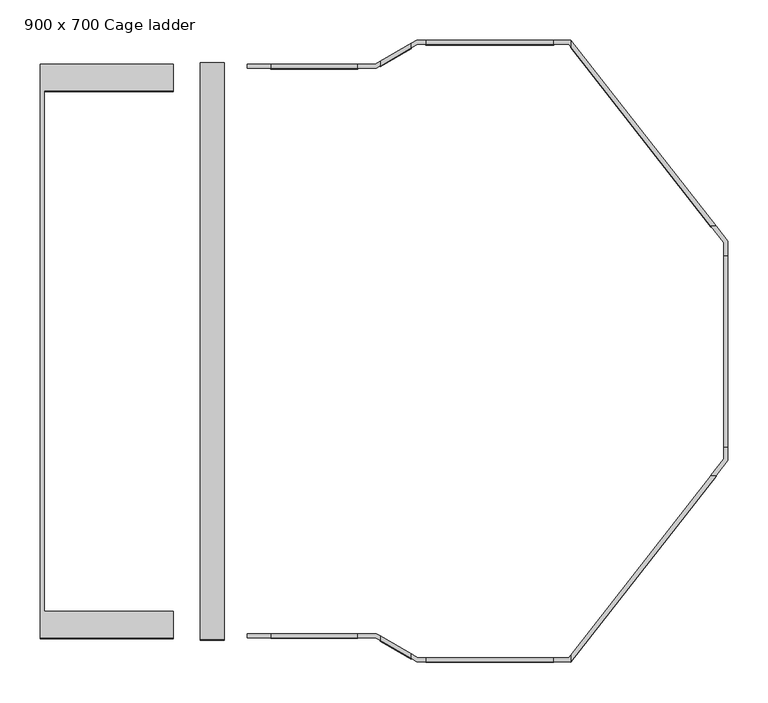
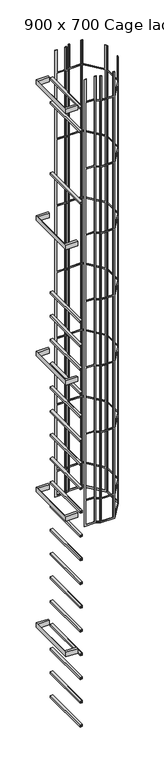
"""IFC4 building model written with IfcOpenShell, lengths in millimetres: proxy geometry, 1_Topaccess_dakluik_900x700_Staka : 900 x 700 Cage ladder."""

from ifc_helpers import new_model, si_unit, frame, origin, place, context, project, spatial, polyline, outline, extrude, faceted_brep, source, transform, mapped, element, save


def proxy_900_x_700_cage_ladder_a34c2096(model_context):
    return source(origin(), model_context, "Body", "SolidModel", [
        extrude(outline(polyline([(-1131.2697623, 496.5450979), (-965.0960873, 496.5450979), (-965.0960873, 463.5450979), (-1126.2697623, 463.5450979), (-1126.2697623, -186.4549021), (-965.0960873, -186.4549021), (-965.0960873, -219.4549021), (-1131.2697623, -219.4549021), (-1131.2697623, 496.5450979)])), frame((0.0, 0.0, -8830.0), z_axis=(0.0, 0.0, 1.0), x_axis=(1.0, 0.0, 0.0)), (0.0, 0.0, 1.0), 66.0),
        extrude(outline(polyline([(-1131.2697623, 496.5450979), (-965.0960873, 496.5450979), (-965.0960873, 463.5450979), (-1126.2697623, 463.5450979), (-1126.2697623, -186.4549021), (-965.0960873, -186.4549021), (-965.0960873, -219.4549021), (-1131.2697623, -219.4549021), (-1131.2697623, 496.5450979)])), frame((0.0, 0.0, -6830.0), z_axis=(0.0, 0.0, 1.0), x_axis=(1.0, 0.0, 0.0)), (0.0, 0.0, 1.0), 66.0),
        extrude(outline(polyline([(-1131.2697623, 496.5450979), (-965.0960873, 496.5450979), (-965.0960873, 463.5450979), (-1126.2697623, 463.5450979), (-1126.2697623, -186.4549021), (-965.0960873, -186.4549021), (-965.0960873, -219.4549021), (-1131.2697623, -219.4549021), (-1131.2697623, 496.5450979)])), frame((0.0, 0.0, -4830.0), z_axis=(0.0, 0.0, 1.0), x_axis=(1.0, 0.0, 0.0)), (0.0, 0.0, 1.0), 66.0),
        extrude(outline(polyline([(-1131.2697623, 496.5450979), (-965.0960873, 496.5450979), (-965.0960873, 463.5450979), (-1126.2697623, 463.5450979), (-1126.2697623, -186.4549021), (-965.0960873, -186.4549021), (-965.0960873, -219.4549021), (-1131.2697623, -219.4549021), (-1131.2697623, 496.5450979)])), frame((0.0, 0.0, -2830.0), z_axis=(0.0, 0.0, 1.0), x_axis=(1.0, 0.0, 0.0)), (0.0, 0.0, 1.0), 66.0),
        extrude(outline(polyline([(-1131.2697623, 496.5450979), (-965.0960873, 496.5450979), (-965.0960873, 463.5450979), (-1126.2697623, 463.5450979), (-1126.2697623, -186.4549021), (-965.0960873, -186.4549021), (-965.0960873, -219.4549021), (-1131.2697623, -219.4549021), (-1131.2697623, 496.5450979)])), frame((0.0, 0.0, -830.0), z_axis=(0.0, 0.0, 1.0), x_axis=(1.0, 0.0, 0.0)), (0.0, 0.0, 1.0), 66.0),
        extrude(outline(polyline([(-9550.3518203, -901.2697623), (-9555.6416297, -931.2697623), (-9583.3518203, -931.2697623), (-9583.3518203, -901.2697623), (-9550.3518203, -901.2697623)]), holes=[polyline([(-9578.3518203, -906.2697623), (-9578.3518203, -926.2697623), (-9559.8371279, -926.2697623), (-9556.3105883, -906.2697623), (-9578.3518203, -906.2697623)])]), frame((0.0, -221.4549021, 0.0), z_axis=(0.0, 1.0, 0.0), x_axis=(0.0, 0.0, 1.0)), (0.0, 0.0, 1.0), 719.9860439),
        extrude(outline(polyline([(-9200.3518203, -901.2697623), (-9205.6416297, -931.2697623), (-9233.3518203, -931.2697623), (-9233.3518203, -901.2697623), (-9200.3518203, -901.2697623)]), holes=[polyline([(-9228.3518203, -906.2697623), (-9228.3518203, -926.2697623), (-9209.8371279, -926.2697623), (-9206.3105883, -906.2697623), (-9228.3518203, -906.2697623)])]), frame((0.0, -221.4549021, 0.0), z_axis=(0.0, 1.0, 0.0), x_axis=(0.0, 0.0, 1.0)), (0.0, 0.0, 1.0), 719.9860439),
        extrude(outline(polyline([(-8850.3518203, -901.2697623), (-8855.6416297, -931.2697623), (-8883.3518203, -931.2697623), (-8883.3518203, -901.2697623), (-8850.3518203, -901.2697623)]), holes=[polyline([(-8878.3518203, -906.2697623), (-8878.3518203, -926.2697623), (-8859.8371279, -926.2697623), (-8856.3105883, -906.2697623), (-8878.3518203, -906.2697623)])]), frame((0.0, -221.4549021, 0.0), z_axis=(0.0, 1.0, 0.0), x_axis=(0.0, 0.0, 1.0)), (0.0, 0.0, 1.0), 719.9860439),
        extrude(outline(polyline([(-8500.3518203, -901.2697623), (-8505.6416297, -931.2697623), (-8533.3518203, -931.2697623), (-8533.3518203, -901.2697623), (-8500.3518203, -901.2697623)]), holes=[polyline([(-8528.3518203, -906.2697623), (-8528.3518203, -926.2697623), (-8509.8371279, -926.2697623), (-8506.3105883, -906.2697623), (-8528.3518203, -906.2697623)])]), frame((0.0, -221.4549021, 0.0), z_axis=(0.0, 1.0, 0.0), x_axis=(0.0, 0.0, 1.0)), (0.0, 0.0, 1.0), 719.9860439),
        extrude(outline(polyline([(-8150.3518203, -901.2697623), (-8155.6416297, -931.2697623), (-8183.3518203, -931.2697623), (-8183.3518203, -901.2697623), (-8150.3518203, -901.2697623)]), holes=[polyline([(-8178.3518203, -906.2697623), (-8178.3518203, -926.2697623), (-8159.8371279, -926.2697623), (-8156.3105883, -906.2697623), (-8178.3518203, -906.2697623)])]), frame((0.0, -221.4549021, 0.0), z_axis=(0.0, 1.0, 0.0), x_axis=(0.0, 0.0, 1.0)), (0.0, 0.0, 1.0), 719.9860439),
        extrude(outline(polyline([(-7800.3518203, -901.2697623), (-7805.6416297, -931.2697623), (-7833.3518203, -931.2697623), (-7833.3518203, -901.2697623), (-7800.3518203, -901.2697623)]), holes=[polyline([(-7828.3518203, -906.2697623), (-7828.3518203, -926.2697623), (-7809.8371279, -926.2697623), (-7806.3105883, -906.2697623), (-7828.3518203, -906.2697623)])]), frame((0.0, -221.4549021, 0.0), z_axis=(0.0, 1.0, 0.0), x_axis=(0.0, 0.0, 1.0)), (0.0, 0.0, 1.0), 719.9860439),
        extrude(outline(polyline([(-9900.3518203, -901.2697623), (-9905.6416297, -931.2697623), (-9933.3518203, -931.2697623), (-9933.3518203, -901.2697623), (-9900.3518203, -901.2697623)]), holes=[polyline([(-9928.3518203, -906.2697623), (-9928.3518203, -926.2697623), (-9909.8371279, -926.2697623), (-9906.3105883, -906.2697623), (-9928.3518203, -906.2697623)])]), frame((0.0, -221.4549021, 0.0), z_axis=(0.0, 1.0, 0.0), x_axis=(0.0, 0.0, 1.0)), (0.0, 0.0, 1.0), 719.9860439),
        faceted_brep([(-469.3139154, -249.4549021, -7000.0), (-661.1345631, -249.4549021, -7000.0), (-713.0960873, -219.4549021, -7000.0), (-873.0960873, -219.4549021, -7000.0), (-873.0960873, -214.4549021, -7000.0), (-711.7563414, -214.4549021, -7000.0), (-659.7948171, -244.4549021, -7000.0), (-471.7525783, -244.4549021, -7000.0), (-278.0960873, 3.4141031, -7000.0), (-278.0960873, 273.6760928, -7000.0), (-471.7525783, 521.5450979, -7000.0), (-659.7948171, 521.5450979, -7000.0), (-711.7563414, 491.5450979, -7000.0), (-873.0960873, 491.5450979, -7000.0), (-873.0960873, 496.5450979, -7000.0), (-713.0960873, 496.5450979, -7000.0), (-661.1345631, 526.5450979, -7000.0), (-469.3139154, 526.5450979, -7000.0), (-273.0960873, 275.3977308, -7000.0), (-273.0960873, 1.692465, -7000.0), (-873.0960873, 496.5450979, -420.0), (-843.5509676, 496.5450979, -420.0), (-843.5509676, 496.5450979, -750.0507287), (-735.0019754, 496.5450979, -750.0507287), (-735.0019754, 496.5450979, -420.0), (-713.0960873, 496.5450979, -420.0), (-735.0019754, 496.5450979, -6979.1330823), (-735.0019754, 496.5450979, -6631.2661646), (-843.5509676, 496.5450979, -6631.2661646), (-843.5509676, 496.5450979, -6979.1330823), (-735.0019754, 496.5450979, -6613.9496738), (-735.0019754, 496.5450979, -5653.9496738), (-843.5509676, 496.5450979, -5653.9496738), (-843.5509676, 496.5450979, -6613.9496738), (-735.0019754, 496.5450979, -5636.6331829), (-735.0019754, 496.5450979, -4676.6331829), (-843.5509676, 496.5450979, -4676.6331829), (-843.5509676, 496.5450979, -5636.6331829), (-735.0019754, 496.5450979, -4659.3166921), (-735.0019754, 496.5450979, -3699.3166921), (-843.5509676, 496.5450979, -3699.3166921), (-843.5509676, 496.5450979, -4659.3166921), (-735.0019754, 496.5450979, -3682.0002012), (-735.0019754, 496.5450979, -2722.0002012), (-843.5509676, 496.5450979, -2722.0002012), (-843.5509676, 496.5450979, -3682.0002012), (-735.0019754, 496.5450979, -2704.6837104), (-735.0019754, 496.5450979, -1744.6837104), (-843.5509676, 496.5450979, -1744.6837104), (-843.5509676, 496.5450979, -2704.6837104), (-735.0019754, 496.5450979, -1727.3672195), (-735.0019754, 496.5450979, -767.3672195), (-843.5509676, 496.5450979, -767.3672195), (-843.5509676, 496.5450979, -1727.3672195), (-707.1488288, 499.9787492, -420.0), (-707.1488288, 499.9787492, -770.9176464), (-667.8982538, 522.6400793, -770.9176464), (-667.8982538, 522.6400793, -420.0), (-661.1345631, 526.5450979, -420.0), (-667.8982538, 522.6400793, -6982.1330823), (-667.8982538, 522.6400793, -6652.1330823), (-707.1488288, 499.9787492, -6652.1330823), (-707.1488288, 499.9787492, -6982.1330823), (-667.8982538, 522.6400793, -6634.8165915), (-667.8982538, 522.6400793, -5674.8165915), (-707.1488288, 499.9787492, -5674.8165915), (-707.1488288, 499.9787492, -6634.8165915), (-667.8982538, 522.6400793, -5657.5001006), (-667.8982538, 522.6400793, -4697.5001006), (-707.1488288, 499.9787492, -4697.5001006), (-707.1488288, 499.9787492, -5657.5001006), (-667.8982538, 522.6400793, -4680.1836098), (-667.8982538, 522.6400793, -3720.1836098), (-707.1488288, 499.9787492, -3720.1836098), (-707.1488288, 499.9787492, -4680.1836098), (-667.8982538, 522.6400793, -3702.8671189), (-667.8982538, 522.6400793, -2742.8671189), (-707.1488288, 499.9787492, -2742.8671189), (-707.1488288, 499.9787492, -3702.8671189), (-667.8982538, 522.6400793, -2725.5506281), (-667.8982538, 522.6400793, -1765.5506281), (-707.1488288, 499.9787492, -1765.5506281), (-707.1488288, 499.9787492, -2725.5506281), (-667.8982538, 522.6400793, -1748.2341372), (-667.8982538, 522.6400793, -788.2341372), (-707.1488288, 499.9787492, -788.2341372), (-707.1488288, 499.9787492, -1748.2341372), (-649.9751443, 526.5450979, -420.0), (-649.9751443, 526.5450979, -770.9176464), (-490.4779321, 526.5450979, -770.9176464), (-490.4779321, 526.5450979, -420.0), (-469.3139154, 526.5450979, -420.0), (-469.3139154, 526.5450979, -770.9176464), (-469.3139154, 526.5450979, -788.2341372), (-469.3139154, 526.5450979, -1748.2341372), (-469.3139154, 526.5450979, -1765.5506281), (-469.3139154, 526.5450979, -2725.5506281), (-469.3139154, 526.5450979, -2742.8671189), (-469.3139154, 526.5450979, -3702.8671189), (-469.3139154, 526.5450979, -3720.1836098), (-469.3139154, 526.5450979, -4680.1836098), (-469.3139154, 526.5450979, -4697.5001006), (-469.3139154, 526.5450979, -5657.5001006), (-469.3139154, 526.5450979, -5674.8165915), (-469.3139154, 526.5450979, -6634.8165915), (-469.3139154, 526.5450979, -6652.1330823), (-469.3139154, 526.5450979, -6975.0), (-490.4779321, 526.5450979, -6979.1330823), (-490.4779321, 526.5450979, -6652.1330823), (-649.9751443, 526.5450979, -6652.1330823), (-649.9751443, 526.5450979, -6979.1330823), (-490.4779321, 526.5450979, -6634.8165915), (-490.4779321, 526.5450979, -5674.8165915), (-649.9751443, 526.5450979, -5674.8165915), (-649.9751443, 526.5450979, -6634.8165915), (-490.4779321, 526.5450979, -5657.5001006), (-490.4779321, 526.5450979, -4697.5001006), (-649.9751443, 526.5450979, -4697.5001006), (-649.9751443, 526.5450979, -5657.5001006), (-490.4779321, 526.5450979, -4680.1836098), (-490.4779321, 526.5450979, -3720.1836098), (-649.9751443, 526.5450979, -3720.1836098), (-649.9751443, 526.5450979, -4680.1836098), (-490.4779321, 526.5450979, -3702.8671189), (-490.4779321, 526.5450979, -2742.8671189), (-649.9751443, 526.5450979, -2742.8671189), (-649.9751443, 526.5450979, -3702.8671189), (-490.4779321, 526.5450979, -2725.5506281), (-490.4779321, 526.5450979, -1765.5506281), (-649.9751443, 526.5450979, -1765.5506281), (-649.9751443, 526.5450979, -2725.5506281), (-490.4779321, 526.5450979, -1748.2341372), (-490.4779321, 526.5450979, -788.2341372), (-649.9751443, 526.5450979, -788.2341372), (-649.9751443, 526.5450979, -1748.2341372), (-287.9175778, 294.3683736, -6975.0), (-287.9175778, 294.3683736, -6652.1330823), (-287.9175778, 294.3683736, -6634.8165915), (-287.9175778, 294.3683736, -5674.8165915), (-287.9175778, 294.3683736, -5657.5001006), (-287.9175778, 294.3683736, -4697.5001006), (-287.9175778, 294.3683736, -4680.1836098), (-287.9175778, 294.3683736, -3720.1836098), (-287.9175778, 294.3683736, -3702.8671189), (-287.9175778, 294.3683736, -2742.8671189), (-287.9175778, 294.3683736, -2725.5506281), (-287.9175778, 294.3683736, -1765.5506281), (-287.9175778, 294.3683736, -1748.2341372), (-287.9175778, 294.3683736, -788.2341372), (-287.9175778, 294.3683736, -770.9176464), (-287.9175778, 294.3683736, -420.0), (-273.0960873, 275.3977308, -420.0), (-273.0960873, 257.7078662, -420.0), (-273.0960873, 257.7078662, -770.9176464), (-273.0960873, 17.7078662, -770.9176464), (-273.0960873, 17.7078662, -420.0), (-273.0960873, 1.692465, -420.0), (-273.0960873, 257.7078662, -6975.0), (-273.0960873, 17.7078662, -6975.0), (-273.0960873, 17.7078662, -6652.1330823), (-273.0960873, 257.7078662, -6652.1330823), (-273.0960873, 257.7078662, -6634.8165915), (-273.0960873, 17.7078662, -6634.8165915), (-273.0960873, 17.7078662, -5674.8165915), (-273.0960873, 257.7078662, -5674.8165915), (-273.0960873, 257.7078662, -5657.5001006), (-273.0960873, 17.7078662, -5657.5001006), (-273.0960873, 17.7078662, -4697.5001006), (-273.0960873, 257.7078662, -4697.5001006), (-273.0960873, 257.7078662, -4680.1836098), (-273.0960873, 17.7078662, -4680.1836098), (-273.0960873, 17.7078662, -3720.1836098), (-273.0960873, 257.7078662, -3720.1836098), (-273.0960873, 257.7078662, -3702.8671189), (-273.0960873, 17.7078662, -3702.8671189), (-273.0960873, 17.7078662, -2742.8671189), (-273.0960873, 257.7078662, -2742.8671189), (-273.0960873, 257.7078662, -2725.5506281), (-273.0960873, 17.7078662, -2725.5506281), (-273.0960873, 17.7078662, -1765.5506281), (-273.0960873, 257.7078662, -1765.5506281), (-273.0960873, 257.7078662, -1748.2341372), (-273.0960873, 17.7078662, -1748.2341372), (-273.0960873, 17.7078662, -788.2341372), (-273.0960873, 257.7078662, -788.2341372), (-287.9284816, -17.2921338, -420.0), (-287.9284816, -17.2921338, -770.9176464), (-469.3139154, -249.4549021, -770.9176464), (-469.3139154, -249.4549021, -788.2341372), (-287.9284816, -17.2921338, -788.2341372), (-287.9284816, -17.2921338, -1748.2341372), (-469.3139154, -249.4549021, -1748.2341372), (-469.3139154, -249.4549021, -1765.5506281), (-287.9284816, -17.2921338, -1765.5506281), (-287.9284816, -17.2921338, -2725.5506281), (-469.3139154, -249.4549021, -2725.5506281), (-469.3139154, -249.4549021, -2742.8671189), (-287.9284816, -17.2921338, -2742.8671189), (-287.9284816, -17.2921338, -3702.8671189), (-469.3139154, -249.4549021, -3702.8671189), (-469.3139154, -249.4549021, -3720.1836098), (-287.9284816, -17.2921338, -3720.1836098), (-287.9284816, -17.2921338, -4680.1836098), (-469.3139154, -249.4549021, -4680.1836098), (-469.3139154, -249.4549021, -4697.5001006), (-287.9284816, -17.2921338, -4697.5001006), (-287.9284816, -17.2921338, -5657.5001006), (-469.3139154, -249.4549021, -5657.5001006), (-469.3139154, -249.4549021, -5674.8165915), (-287.9284816, -17.2921338, -5674.8165915), (-287.9284816, -17.2921338, -6634.8165915), (-469.3139154, -249.4549021, -6634.8165915), (-469.3139154, -249.4549021, -6652.1330823), (-287.9284816, -17.2921338, -6652.1330823), (-287.9284816, -17.2921338, -6979.1330823), (-469.3139154, -249.4549021, -6979.1330823), (-469.3139154, -249.4549021, -420.0), (-490.4779321, -249.4549021, -420.0), (-490.4779321, -249.4549021, -770.9176464), (-649.9751443, -249.4549021, -770.9176464), (-649.9751443, -249.4549021, -420.0), (-661.1345631, -249.4549021, -420.0), (-490.4779321, -249.4549021, -6652.1330823), (-490.4779321, -249.4549021, -6979.1330823), (-649.9751443, -249.4549021, -6979.1330823), (-649.9751443, -249.4549021, -6652.1330823), (-490.4779321, -249.4549021, -5674.8165915), (-490.4779321, -249.4549021, -6634.8165915), (-649.9751443, -249.4549021, -6634.8165915), (-649.9751443, -249.4549021, -5674.8165915), (-490.4779321, -249.4549021, -4697.5001006), (-490.4779321, -249.4549021, -5657.5001006), (-649.9751443, -249.4549021, -5657.5001006), (-649.9751443, -249.4549021, -4697.5001006), (-490.4779321, -249.4549021, -3720.1836098), (-490.4779321, -249.4549021, -4680.1836098), (-649.9751443, -249.4549021, -4680.1836098), (-649.9751443, -249.4549021, -3720.1836098), (-490.4779321, -249.4549021, -2742.8671189), (-490.4779321, -249.4549021, -3702.8671189), (-649.9751443, -249.4549021, -3702.8671189), (-649.9751443, -249.4549021, -2742.8671189), (-490.4779321, -249.4549021, -1765.5506281), (-490.4779321, -249.4549021, -2725.5506281), (-649.9751443, -249.4549021, -2725.5506281), (-649.9751443, -249.4549021, -1765.5506281), (-490.4779321, -249.4549021, -788.2341372), (-490.4779321, -249.4549021, -1748.2341372), (-649.9751443, -249.4549021, -1748.2341372), (-649.9751443, -249.4549021, -788.2341372), (-667.8982538, -245.5498834, -420.0), (-667.8982538, -245.5498834, -770.9176464), (-707.1488288, -222.8885533, -770.9176464), (-707.1488288, -222.8885533, -420.0), (-713.0960873, -219.4549021, -420.0), (-667.8982538, -245.5498834, -6652.1330823), (-667.8982538, -245.5498834, -6982.1330823), (-707.1488288, -222.8885533, -6982.1330823), (-707.1488288, -222.8885533, -6652.1330823), (-667.8982538, -245.5498834, -5674.8165915), (-667.8982538, -245.5498834, -6634.8165915), (-707.1488288, -222.8885533, -6634.8165915), (-707.1488288, -222.8885533, -5674.8165915), (-667.8982538, -245.5498834, -4697.5001006), (-667.8982538, -245.5498834, -5657.5001006), (-707.1488288, -222.8885533, -5657.5001006), (-707.1488288, -222.8885533, -4697.5001006), (-667.8982538, -245.5498834, -3720.1836098), (-667.8982538, -245.5498834, -4680.1836098), (-707.1488288, -222.8885533, -4680.1836098), (-707.1488288, -222.8885533, -3720.1836098), (-667.8982538, -245.5498834, -2742.8671189), (-667.8982538, -245.5498834, -3702.8671189), (-707.1488288, -222.8885533, -3702.8671189), (-707.1488288, -222.8885533, -2742.8671189), (-667.8982538, -245.5498834, -1765.5506281), (-667.8982538, -245.5498834, -2725.5506281), (-707.1488288, -222.8885533, -2725.5506281), (-707.1488288, -222.8885533, -1765.5506281), (-667.8982538, -245.5498834, -788.2341372), (-667.8982538, -245.5498834, -1748.2341372), (-707.1488288, -222.8885533, -1748.2341372), (-707.1488288, -222.8885533, -788.2341372), (-735.0019754, -219.4549021, -420.0), (-735.0019754, -219.4549021, -750.0507287), (-843.5509676, -219.4549021, -750.0507287), (-843.5509676, -219.4549021, -420.0), (-873.0960873, -219.4549021, -420.0), (-735.0019754, -219.4549021, -6631.2661646), (-735.0019754, -219.4549021, -6979.1330823), (-843.5509676, -219.4549021, -6979.1330823), (-843.5509676, -219.4549021, -6631.2661646), (-735.0019754, -219.4549021, -5653.9496738), (-735.0019754, -219.4549021, -6613.9496738), (-843.5509676, -219.4549021, -6613.9496738), (-843.5509676, -219.4549021, -5653.9496738), (-735.0019754, -219.4549021, -4676.6331829), (-735.0019754, -219.4549021, -5636.6331829), (-843.5509676, -219.4549021, -5636.6331829), (-843.5509676, -219.4549021, -4676.6331829), (-735.0019754, -219.4549021, -3699.3166921), (-735.0019754, -219.4549021, -4659.3166921), (-843.5509676, -219.4549021, -4659.3166921), (-843.5509676, -219.4549021, -3699.3166921), (-735.0019754, -219.4549021, -2722.0002012), (-735.0019754, -219.4549021, -3682.0002012), (-843.5509676, -219.4549021, -3682.0002012), (-843.5509676, -219.4549021, -2722.0002012), (-735.0019754, -219.4549021, -1744.6837104), (-735.0019754, -219.4549021, -2704.6837104), (-843.5509676, -219.4549021, -2704.6837104), (-843.5509676, -219.4549021, -1744.6837104), (-735.0019754, -219.4549021, -767.3672195), (-735.0019754, -219.4549021, -1727.3672195), (-843.5509676, -219.4549021, -1727.3672195), (-843.5509676, -219.4549021, -767.3672195), (-873.0960873, -214.4549021, -420.0), (-843.5509676, -214.4549021, -420.0), (-843.5509676, -214.4549021, -750.0507287), (-735.0019754, -214.4549021, -750.0507287), (-735.0019754, -214.4549021, -420.0), (-711.7563414, -214.4549021, -420.0), (-735.0019754, -214.4549021, -6979.1330823), (-735.0019754, -214.4549021, -6631.2661646), (-843.5509676, -214.4549021, -6631.2661646), (-843.5509676, -214.4549021, -6979.1330823), (-735.0019754, -214.4549021, -6613.9496738), (-735.0019754, -214.4549021, -5653.9496738), (-843.5509676, -214.4549021, -5653.9496738), (-843.5509676, -214.4549021, -6613.9496738), (-735.0019754, -214.4549021, -5636.6331829), (-735.0019754, -214.4549021, -4676.6331829), (-843.5509676, -214.4549021, -4676.6331829), (-843.5509676, -214.4549021, -5636.6331829), (-735.0019754, -214.4549021, -4659.3166921), (-735.0019754, -214.4549021, -3699.3166921), (-843.5509676, -214.4549021, -3699.3166921), (-843.5509676, -214.4549021, -4659.3166921), (-735.0019754, -214.4549021, -3682.0002012), (-735.0019754, -214.4549021, -2722.0002012), (-843.5509676, -214.4549021, -2722.0002012), (-843.5509676, -214.4549021, -3682.0002012), (-735.0019754, -214.4549021, -2704.6837104), (-735.0019754, -214.4549021, -1744.6837104), (-843.5509676, -214.4549021, -1744.6837104), (-843.5509676, -214.4549021, -2704.6837104), (-735.0019754, -214.4549021, -1727.3672195), (-735.0019754, -214.4549021, -767.3672195), (-843.5509676, -214.4549021, -767.3672195), (-843.5509676, -214.4549021, -1727.3672195), (-707.1488288, -217.1150507, -420.0), (-707.1488288, -217.1150507, -770.9176464), (-667.8982538, -239.7763807, -770.9176464), (-667.8982538, -239.7763807, -420.0), (-659.7948171, -244.4549021, -420.0), (-667.8982538, -239.7763807, -6982.1330823), (-667.8982538, -239.7763807, -6652.1330823), (-707.1488288, -217.1150507, -6652.1330823), (-707.1488288, -217.1150507, -6982.1330823), (-667.8982538, -239.7763807, -6634.8165915), (-667.8982538, -239.7763807, -5674.8165915), (-707.1488288, -217.1150507, -5674.8165915), (-707.1488288, -217.1150507, -6634.8165915), (-667.8982538, -239.7763807, -5657.5001006), (-667.8982538, -239.7763807, -4697.5001006), (-707.1488288, -217.1150507, -4697.5001006), (-707.1488288, -217.1150507, -5657.5001006), (-667.8982538, -239.7763807, -4680.1836098), (-667.8982538, -239.7763807, -3720.1836098), (-707.1488288, -217.1150507, -3720.1836098), (-707.1488288, -217.1150507, -4680.1836098), (-667.8982538, -239.7763807, -3702.8671189), (-667.8982538, -239.7763807, -2742.8671189), (-707.1488288, -217.1150507, -2742.8671189), (-707.1488288, -217.1150507, -3702.8671189), (-667.8982538, -239.7763807, -2725.5506281), (-667.8982538, -239.7763807, -1765.5506281), (-707.1488288, -217.1150507, -1765.5506281), (-707.1488288, -217.1150507, -2725.5506281), (-667.8982538, -239.7763807, -1748.2341372), (-667.8982538, -239.7763807, -788.2341372), (-707.1488288, -217.1150507, -788.2341372), (-707.1488288, -217.1150507, -1748.2341372), (-649.9751443, -244.4549021, -420.0), (-649.9751443, -244.4549021, -770.9176464), (-490.4779321, -244.4549021, -770.9176464), (-490.4779321, -244.4549021, -420.0), (-471.7525783, -244.4549021, -420.0), (-490.4779321, -244.4549021, -6979.1330823), (-490.4779321, -244.4549021, -6652.1330823), (-649.9751443, -244.4549021, -6652.1330823), (-649.9751443, -244.4549021, -6979.1330823), (-490.4779321, -244.4549021, -6634.8165915), (-490.4779321, -244.4549021, -5674.8165915), (-649.9751443, -244.4549021, -5674.8165915), (-649.9751443, -244.4549021, -6634.8165915), (-490.4779321, -244.4549021, -5657.5001006), (-490.4779321, -244.4549021, -4697.5001006), (-649.9751443, -244.4549021, -4697.5001006), (-649.9751443, -244.4549021, -5657.5001006), (-490.4779321, -244.4549021, -4680.1836098), (-490.4779321, -244.4549021, -3720.1836098), (-649.9751443, -244.4549021, -3720.1836098), (-649.9751443, -244.4549021, -4680.1836098), (-490.4779321, -244.4549021, -3702.8671189), (-490.4779321, -244.4549021, -2742.8671189), (-649.9751443, -244.4549021, -2742.8671189), (-649.9751443, -244.4549021, -3702.8671189), (-490.4779321, -244.4549021, -2725.5506281), (-490.4779321, -244.4549021, -1765.5506281), (-649.9751443, -244.4549021, -1765.5506281), (-649.9751443, -244.4549021, -2725.5506281), (-490.4779321, -244.4549021, -1748.2341372), (-490.4779321, -244.4549021, -788.2341372), (-649.9751443, -244.4549021, -788.2341372), (-649.9751443, -244.4549021, -1748.2341372), (-469.3139154, -241.3335558, -420.0), (-469.3139154, -241.3335558, -770.9176464), (-294.2735726, -17.2921338, -770.9176464), (-294.2735726, -17.2921338, -420.0), (-278.0960873, 3.4141031, -420.0), (-469.3139154, -241.3335558, -6652.1330823), (-469.3139154, -241.3335558, -6979.1330823), (-294.2735726, -17.2921338, -6979.1330823), (-294.2735726, -17.2921338, -6652.1330823), (-469.3139154, -241.3335558, -5674.8165915), (-469.3139154, -241.3335558, -6634.8165915), (-294.2735726, -17.2921338, -6634.8165915), (-294.2735726, -17.2921338, -5674.8165915), (-469.3139154, -241.3335558, -4697.5001006), (-469.3139154, -241.3335558, -5657.5001006), (-294.2735726, -17.2921338, -5657.5001006), (-294.2735726, -17.2921338, -4697.5001006), (-469.3139154, -241.3335558, -3720.1836098), (-469.3139154, -241.3335558, -4680.1836098), (-294.2735726, -17.2921338, -4680.1836098), (-294.2735726, -17.2921338, -3720.1836098), (-469.3139154, -241.3335558, -2742.8671189), (-469.3139154, -241.3335558, -3702.8671189), (-294.2735726, -17.2921338, -3702.8671189), (-294.2735726, -17.2921338, -2742.8671189), (-469.3139154, -241.3335558, -1765.5506281), (-469.3139154, -241.3335558, -2725.5506281), (-294.2735726, -17.2921338, -2725.5506281), (-294.2735726, -17.2921338, -1765.5506281), (-469.3139154, -241.3335558, -788.2341372), (-469.3139154, -241.3335558, -1748.2341372), (-294.2735726, -17.2921338, -1748.2341372), (-294.2735726, -17.2921338, -788.2341372), (-278.0960873, 17.7078662, -420.0), (-278.0960873, 17.7078662, -770.9176464), (-278.0960873, 257.7078662, -770.9176464), (-278.0960873, 257.7078662, -420.0), (-278.0960873, 273.6760928, -420.0), (-278.0960873, 17.7078662, -6975.0), (-278.0960873, 257.7078662, -6975.0), (-278.0960873, 257.7078662, -6652.1330823), (-278.0960873, 17.7078662, -6652.1330823), (-278.0960873, 17.7078662, -6634.8165915), (-278.0960873, 257.7078662, -6634.8165915), (-278.0960873, 257.7078662, -5674.8165915), (-278.0960873, 17.7078662, -5674.8165915), (-278.0960873, 17.7078662, -5657.5001006), (-278.0960873, 257.7078662, -5657.5001006), (-278.0960873, 257.7078662, -4697.5001006), (-278.0960873, 17.7078662, -4697.5001006), (-278.0960873, 17.7078662, -4680.1836098), (-278.0960873, 257.7078662, -4680.1836098), (-278.0960873, 257.7078662, -3720.1836098), (-278.0960873, 17.7078662, -3720.1836098), (-278.0960873, 17.7078662, -3702.8671189), (-278.0960873, 257.7078662, -3702.8671189), (-278.0960873, 257.7078662, -2742.8671189), (-278.0960873, 17.7078662, -2742.8671189), (-278.0960873, 17.7078662, -2725.5506281), (-278.0960873, 257.7078662, -2725.5506281), (-278.0960873, 257.7078662, -1765.5506281), (-278.0960873, 17.7078662, -1765.5506281), (-278.0960873, 17.7078662, -1748.2341372), (-278.0960873, 257.7078662, -1748.2341372), (-278.0960873, 257.7078662, -788.2341372), (-278.0960873, 17.7078662, -788.2341372), (-294.2626689, 294.3683736, -420.0), (-294.2626689, 294.3683736, -770.9176464), (-469.3139154, 518.4237517, -770.9176464), (-469.3139154, 518.4237517, -420.0), (-471.7525783, 521.5450979, -420.0), (-469.3139154, 518.4237517, -6975.0), (-469.3139154, 518.4237517, -6652.1330823), (-294.2626689, 294.3683736, -6652.1330823), (-294.2626689, 294.3683736, -6975.0), (-469.3139154, 518.4237517, -6634.8165915), (-469.3139154, 518.4237517, -5674.8165915), (-294.2626689, 294.3683736, -5674.8165915), (-294.2626689, 294.3683736, -6634.8165915), (-469.3139154, 518.4237517, -5657.5001006), (-469.3139154, 518.4237517, -4697.5001006), (-294.2626689, 294.3683736, -4697.5001006), (-294.2626689, 294.3683736, -5657.5001006), (-469.3139154, 518.4237517, -4680.1836098), (-469.3139154, 518.4237517, -3720.1836098), (-294.2626689, 294.3683736, -3720.1836098), (-294.2626689, 294.3683736, -4680.1836098), (-469.3139154, 518.4237517, -3702.8671189), (-469.3139154, 518.4237517, -2742.8671189), (-294.2626689, 294.3683736, -2742.8671189), (-294.2626689, 294.3683736, -3702.8671189), (-469.3139154, 518.4237517, -2725.5506281), (-469.3139154, 518.4237517, -1765.5506281), (-294.2626689, 294.3683736, -1765.5506281), (-294.2626689, 294.3683736, -2725.5506281), (-469.3139154, 518.4237517, -1748.2341372), (-469.3139154, 518.4237517, -788.2341372), (-294.2626689, 294.3683736, -788.2341372), (-294.2626689, 294.3683736, -1748.2341372), (-490.4779321, 521.5450979, -420.0), (-490.4779321, 521.5450979, -770.9176464), (-649.9751443, 521.5450979, -770.9176464), (-649.9751443, 521.5450979, -420.0), (-659.7948171, 521.5450979, -420.0), (-490.4779321, 521.5450979, -6652.1330823), (-490.4779321, 521.5450979, -6979.1330823), (-649.9751443, 521.5450979, -6979.1330823), (-649.9751443, 521.5450979, -6652.1330823), (-490.4779321, 521.5450979, -5674.8165915), (-490.4779321, 521.5450979, -6634.8165915), (-649.9751443, 521.5450979, -6634.8165915), (-649.9751443, 521.5450979, -5674.8165915), (-490.4779321, 521.5450979, -4697.5001006), (-490.4779321, 521.5450979, -5657.5001006), (-649.9751443, 521.5450979, -5657.5001006), (-649.9751443, 521.5450979, -4697.5001006), (-490.4779321, 521.5450979, -3720.1836098), (-490.4779321, 521.5450979, -4680.1836098), (-649.9751443, 521.5450979, -4680.1836098), (-649.9751443, 521.5450979, -3720.1836098), (-490.4779321, 521.5450979, -2742.8671189), (-490.4779321, 521.5450979, -3702.8671189), (-649.9751443, 521.5450979, -3702.8671189), (-649.9751443, 521.5450979, -2742.8671189), (-490.4779321, 521.5450979, -1765.5506281), (-490.4779321, 521.5450979, -2725.5506281), (-649.9751443, 521.5450979, -2725.5506281), (-649.9751443, 521.5450979, -1765.5506281), (-490.4779321, 521.5450979, -788.2341372), (-490.4779321, 521.5450979, -1748.2341372), (-649.9751443, 521.5450979, -1748.2341372), (-649.9751443, 521.5450979, -788.2341372), (-667.8982538, 516.8665766, -420.0), (-667.8982538, 516.8665766, -770.9176464), (-707.1488288, 494.2052465, -770.9176464), (-707.1488288, 494.2052465, -420.0), (-711.7563414, 491.5450979, -420.0), (-667.8982538, 516.8665766, -6652.1330823), (-667.8982538, 516.8665766, -6982.1330823), (-707.1488288, 494.2052465, -6982.1330823), (-707.1488288, 494.2052465, -6652.1330823), (-667.8982538, 516.8665766, -5674.8165915), (-667.8982538, 516.8665766, -6634.8165915), (-707.1488288, 494.2052465, -6634.8165915), (-707.1488288, 494.2052465, -5674.8165915), (-667.8982538, 516.8665766, -4697.5001006), (-667.8982538, 516.8665766, -5657.5001006), (-707.1488288, 494.2052465, -5657.5001006), (-707.1488288, 494.2052465, -4697.5001006), (-667.8982538, 516.8665766, -3720.1836098), (-667.8982538, 516.8665766, -4680.1836098), (-707.1488288, 494.2052465, -4680.1836098), (-707.1488288, 494.2052465, -3720.1836098), (-667.8982538, 516.8665766, -2742.8671189), (-667.8982538, 516.8665766, -3702.8671189), (-707.1488288, 494.2052465, -3702.8671189), (-707.1488288, 494.2052465, -2742.8671189), (-667.8982538, 516.8665766, -1765.5506281), (-667.8982538, 516.8665766, -2725.5506281), (-707.1488288, 494.2052465, -2725.5506281), (-707.1488288, 494.2052465, -1765.5506281), (-667.8982538, 516.8665766, -788.2341372), (-667.8982538, 516.8665766, -1748.2341372), (-707.1488288, 494.2052465, -1748.2341372), (-707.1488288, 494.2052465, -788.2341372), (-735.0019754, 491.5450979, -420.0), (-735.0019754, 491.5450979, -750.0507287), (-843.5509676, 491.5450979, -750.0507287), (-843.5509676, 491.5450979, -420.0), (-873.0960873, 491.5450979, -420.0), (-735.0019754, 491.5450979, -6631.2661646), (-735.0019754, 491.5450979, -6979.1330823), (-843.5509676, 491.5450979, -6979.1330823), (-843.5509676, 491.5450979, -6631.2661646), (-735.0019754, 491.5450979, -5653.9496738), (-735.0019754, 491.5450979, -6613.9496738), (-843.5509676, 491.5450979, -6613.9496738), (-843.5509676, 491.5450979, -5653.9496738), (-735.0019754, 491.5450979, -4676.6331829), (-735.0019754, 491.5450979, -5636.6331829), (-843.5509676, 491.5450979, -5636.6331829), (-843.5509676, 491.5450979, -4676.6331829), (-735.0019754, 491.5450979, -3699.3166921), (-735.0019754, 491.5450979, -4659.3166921), (-843.5509676, 491.5450979, -4659.3166921), (-843.5509676, 491.5450979, -3699.3166921), (-735.0019754, 491.5450979, -2722.0002012), (-735.0019754, 491.5450979, -3682.0002012), (-843.5509676, 491.5450979, -3682.0002012), (-843.5509676, 491.5450979, -2722.0002012), (-735.0019754, 491.5450979, -1744.6837104), (-735.0019754, 491.5450979, -2704.6837104), (-843.5509676, 491.5450979, -2704.6837104), (-843.5509676, 491.5450979, -1744.6837104), (-735.0019754, 491.5450979, -767.3672195), (-735.0019754, 491.5450979, -1727.3672195), (-843.5509676, 491.5450979, -1727.3672195), (-843.5509676, 491.5450979, -767.3672195)], [[[0, 1, 2, 3, 4, 5, 6, 7, 8, 9, 10, 11, 12, 13, 14, 15, 16, 17, 18, 19]], [[15, 14, 20, 21, 22, 23, 24, 25], [26, 27, 28, 29], [30, 31, 32, 33], [34, 35, 36, 37], [38, 39, 40, 41], [42, 43, 44, 45], [46, 47, 48, 49], [50, 51, 52, 53]], [[16, 15, 25, 54, 55, 56, 57, 58], [59, 60, 61, 62], [63, 64, 65, 66], [67, 68, 69, 70], [71, 72, 73, 74], [75, 76, 77, 78], [79, 80, 81, 82], [83, 84, 85, 86]], [[17, 16, 58, 87, 88, 89, 90, 91, 92, 93, 94, 95, 96, 97, 98, 99, 100, 101, 102, 103, 104, 105, 106], [107, 108, 109, 110], [111, 112, 113, 114], [115, 116, 117, 118], [119, 120, 121, 122], [123, 124, 125, 126], [127, 128, 129, 130], [131, 132, 133, 134]], [[18, 17, 106, 135, 136, 105, 104, 137, 138, 103, 102, 139, 140, 101, 100, 141, 142, 99, 98, 143, 144, 97, 96, 145, 146, 95, 94, 147, 148, 93, 92, 149, 150, 151]], [[19, 18, 151, 152, 153, 154, 155, 156], [157, 158, 159, 160], [161, 162, 163, 164], [165, 166, 167, 168], [169, 170, 171, 172], [173, 174, 175, 176], [177, 178, 179, 180], [181, 182, 183, 184]], [[0, 19, 156, 185, 186, 187, 188, 189, 190, 191, 192, 193, 194, 195, 196, 197, 198, 199, 200, 201, 202, 203, 204, 205, 206, 207, 208, 209, 210, 211, 212, 213, 214, 215]], [[1, 0, 215, 212, 211, 208, 207, 204, 203, 200, 199, 196, 195, 192, 191, 188, 187, 216, 217, 218, 219, 220, 221], [222, 223, 224, 225], [226, 227, 228, 229], [230, 231, 232, 233], [234, 235, 236, 237], [238, 239, 240, 241], [242, 243, 244, 245], [246, 247, 248, 249]], [[2, 1, 221, 250, 251, 252, 253, 254], [255, 256, 257, 258], [259, 260, 261, 262], [263, 264, 265, 266], [267, 268, 269, 270], [271, 272, 273, 274], [275, 276, 277, 278], [279, 280, 281, 282]], [[3, 2, 254, 283, 284, 285, 286, 287], [288, 289, 290, 291], [292, 293, 294, 295], [296, 297, 298, 299], [300, 301, 302, 303], [304, 305, 306, 307], [308, 309, 310, 311], [312, 313, 314, 315]], [[4, 3, 287, 316]], [[5, 4, 316, 317, 318, 319, 320, 321], [322, 323, 324, 325], [326, 327, 328, 329], [330, 331, 332, 333], [334, 335, 336, 337], [338, 339, 340, 341], [342, 343, 344, 345], [346, 347, 348, 349]], [[6, 5, 321, 350, 351, 352, 353, 354], [355, 356, 357, 358], [359, 360, 361, 362], [363, 364, 365, 366], [367, 368, 369, 370], [371, 372, 373, 374], [375, 376, 377, 378], [379, 380, 381, 382]], [[7, 6, 354, 383, 384, 385, 386, 387], [388, 389, 390, 391], [392, 393, 394, 395], [396, 397, 398, 399], [400, 401, 402, 403], [404, 405, 406, 407], [408, 409, 410, 411], [412, 413, 414, 415]], [[8, 7, 387, 416, 417, 418, 419, 420], [421, 422, 423, 424], [425, 426, 427, 428], [429, 430, 431, 432], [433, 434, 435, 436], [437, 438, 439, 440], [441, 442, 443, 444], [445, 446, 447, 448]], [[9, 8, 420, 449, 450, 451, 452, 453], [454, 455, 456, 457], [458, 459, 460, 461], [462, 463, 464, 465], [466, 467, 468, 469], [470, 471, 472, 473], [474, 475, 476, 477], [478, 479, 480, 481]], [[10, 9, 453, 482, 483, 484, 485, 486], [487, 488, 489, 490], [491, 492, 493, 494], [495, 496, 497, 498], [499, 500, 501, 502], [503, 504, 505, 506], [507, 508, 509, 510], [511, 512, 513, 514]], [[11, 10, 486, 515, 516, 517, 518, 519], [520, 521, 522, 523], [524, 525, 526, 527], [528, 529, 530, 531], [532, 533, 534, 535], [536, 537, 538, 539], [540, 541, 542, 543], [544, 545, 546, 547]], [[12, 11, 519, 548, 549, 550, 551, 552], [553, 554, 555, 556], [557, 558, 559, 560], [561, 562, 563, 564], [565, 566, 567, 568], [569, 570, 571, 572], [573, 574, 575, 576], [577, 578, 579, 580]], [[13, 12, 552, 581, 582, 583, 584, 585], [586, 587, 588, 589], [590, 591, 592, 593], [594, 595, 596, 597], [598, 599, 600, 601], [602, 603, 604, 605], [606, 607, 608, 609], [610, 611, 612, 613]], [[14, 13, 585, 20]], [[454, 158, 157, 455]], [[455, 157, 160, 456]], [[456, 160, 159, 457]], [[158, 454, 457, 159]], [[458, 162, 161, 459]], [[459, 161, 164, 460]], [[460, 164, 163, 461]], [[162, 458, 461, 163]], [[462, 166, 165, 463]], [[463, 165, 168, 464]], [[464, 168, 167, 465]], [[166, 462, 465, 167]], [[466, 170, 169, 467]], [[467, 169, 172, 468]], [[468, 172, 171, 469]], [[170, 466, 469, 171]], [[470, 174, 173, 471]], [[471, 173, 176, 472]], [[472, 176, 175, 473]], [[174, 470, 473, 175]], [[474, 178, 177, 475]], [[475, 177, 180, 476]], [[476, 180, 179, 477]], [[178, 474, 477, 179]], [[478, 182, 181, 479]], [[479, 181, 184, 480]], [[480, 184, 183, 481]], [[182, 478, 481, 183]], [[450, 154, 153, 451]], [[451, 153, 152, 452]], [[154, 450, 449, 155]], [[215, 422, 421, 212]], [[211, 426, 425, 208]], [[207, 430, 429, 204]], [[203, 434, 433, 200]], [[199, 438, 437, 196]], [[195, 442, 441, 192]], [[191, 446, 445, 188]], [[187, 417, 416, 216]], [[422, 215, 214, 423]], [[423, 214, 213, 424]], [[212, 421, 424, 213]], [[426, 211, 210, 427]], [[427, 210, 209, 428]], [[208, 425, 428, 209]], [[430, 207, 206, 431]], [[431, 206, 205, 432]], [[204, 429, 432, 205]], [[434, 203, 202, 435]], [[435, 202, 201, 436]], [[200, 433, 436, 201]], [[438, 199, 198, 439]], [[439, 198, 197, 440]], [[196, 437, 440, 197]], [[442, 195, 194, 443]], [[443, 194, 193, 444]], [[192, 441, 444, 193]], [[446, 191, 190, 447]], [[447, 190, 189, 448]], [[188, 445, 448, 189]], [[417, 187, 186, 418]], [[418, 186, 185, 419]], [[484, 92, 91, 485]], [[105, 488, 487, 106]], [[103, 492, 491, 104]], [[101, 496, 495, 102]], [[99, 500, 499, 100]], [[97, 504, 503, 98]], [[95, 508, 507, 96]], [[93, 512, 511, 94]], [[106, 487, 490, 135]], [[135, 490, 489, 136]], [[488, 105, 136, 489]], [[104, 491, 494, 137]], [[137, 494, 493, 138]], [[492, 103, 138, 493]], [[102, 495, 498, 139]], [[139, 498, 497, 140]], [[496, 101, 140, 497]], [[100, 499, 502, 141]], [[141, 502, 501, 142]], [[500, 99, 142, 501]], [[98, 503, 506, 143]], [[143, 506, 505, 144]], [[504, 97, 144, 505]], [[96, 507, 510, 145]], [[145, 510, 509, 146]], [[508, 95, 146, 509]], [[94, 511, 514, 147]], [[147, 514, 513, 148]], [[512, 93, 148, 513]], [[92, 484, 483, 149]], [[149, 483, 482, 150]], [[388, 223, 222, 389]], [[107, 521, 520, 108]], [[392, 227, 226, 393]], [[111, 525, 524, 112]], [[396, 231, 230, 397]], [[115, 529, 528, 116]], [[400, 235, 234, 401]], [[119, 533, 532, 120]], [[404, 239, 238, 405]], [[123, 537, 536, 124]], [[408, 243, 242, 409]], [[127, 541, 540, 128]], [[412, 247, 246, 413]], [[131, 545, 544, 132]], [[385, 218, 217, 386]], [[89, 516, 515, 90]], [[390, 225, 224, 391]], [[109, 523, 522, 110]], [[394, 229, 228, 395]], [[113, 527, 526, 114]], [[398, 233, 232, 399]], [[117, 531, 530, 118]], [[402, 237, 236, 403]], [[121, 535, 534, 122]], [[406, 241, 240, 407]], [[125, 539, 538, 126]], [[410, 245, 244, 411]], [[129, 543, 542, 130]], [[414, 249, 248, 415]], [[133, 547, 546, 134]], [[219, 384, 383, 220]], [[517, 88, 87, 518]], [[223, 388, 391, 224]], [[521, 107, 110, 522]], [[389, 222, 225, 390]], [[108, 520, 523, 109]], [[227, 392, 395, 228]], [[525, 111, 114, 526]], [[393, 226, 229, 394]], [[112, 524, 527, 113]], [[231, 396, 399, 232]], [[529, 115, 118, 530]], [[397, 230, 233, 398]], [[116, 528, 531, 117]], [[235, 400, 403, 236]], [[533, 119, 122, 534]], [[401, 234, 237, 402]], [[120, 532, 535, 121]], [[239, 404, 407, 240]], [[537, 123, 126, 538]], [[405, 238, 241, 406]], [[124, 536, 539, 125]], [[243, 408, 411, 244]], [[541, 127, 130, 542]], [[409, 242, 245, 410]], [[128, 540, 543, 129]], [[247, 412, 415, 248]], [[545, 131, 134, 546]], [[413, 246, 249, 414]], [[132, 544, 547, 133]], [[218, 385, 384, 219]], [[516, 89, 88, 517]], [[322, 289, 288, 323]], [[326, 293, 292, 327]], [[330, 297, 296, 331]], [[334, 301, 300, 335]], [[338, 305, 304, 339]], [[342, 309, 308, 343]], [[346, 313, 312, 347]], [[319, 284, 283, 320]], [[26, 587, 586, 27]], [[30, 591, 590, 31]], [[34, 595, 594, 35]], [[38, 599, 598, 39]], [[42, 603, 602, 43]], [[46, 607, 606, 47]], [[50, 611, 610, 51]], [[23, 582, 581, 24]], [[324, 291, 290, 325]], [[328, 295, 294, 329]], [[332, 299, 298, 333]], [[336, 303, 302, 337]], [[340, 307, 306, 341]], [[344, 311, 310, 345]], [[348, 315, 314, 349]], [[285, 318, 317, 286]], [[28, 589, 588, 29]], [[32, 593, 592, 33]], [[36, 597, 596, 37]], [[40, 601, 600, 41]], [[44, 605, 604, 45]], [[48, 609, 608, 49]], [[52, 613, 612, 53]], [[583, 22, 21, 584]], [[289, 322, 325, 290]], [[587, 26, 29, 588]], [[323, 288, 291, 324]], [[27, 586, 589, 28]], [[293, 326, 329, 294]], [[591, 30, 33, 592]], [[327, 292, 295, 328]], [[31, 590, 593, 32]], [[297, 330, 333, 298]], [[595, 34, 37, 596]], [[331, 296, 299, 332]], [[35, 594, 597, 36]], [[301, 334, 337, 302]], [[599, 38, 41, 600]], [[335, 300, 303, 336]], [[39, 598, 601, 40]], [[305, 338, 341, 306]], [[603, 42, 45, 604]], [[339, 304, 307, 340]], [[43, 602, 605, 44]], [[309, 342, 345, 310]], [[607, 46, 49, 608]], [[343, 308, 311, 344]], [[47, 606, 609, 48]], [[313, 346, 349, 314]], [[611, 50, 53, 612]], [[347, 312, 315, 348]], [[51, 610, 613, 52]], [[284, 319, 318, 285]], [[582, 23, 22, 583]], [[355, 256, 255, 356]], [[359, 260, 259, 360]], [[363, 264, 263, 364]], [[367, 268, 267, 368]], [[371, 272, 271, 372]], [[375, 276, 275, 376]], [[379, 280, 279, 380]], [[352, 251, 250, 353]], [[59, 554, 553, 60]], [[63, 558, 557, 64]], [[67, 562, 561, 68]], [[71, 566, 565, 72]], [[75, 570, 569, 76]], [[79, 574, 573, 80]], [[83, 578, 577, 84]], [[56, 549, 548, 57]], [[357, 258, 257, 358]], [[361, 262, 261, 362]], [[365, 266, 265, 366]], [[369, 270, 269, 370]], [[373, 274, 273, 374]], [[377, 278, 277, 378]], [[381, 282, 281, 382]], [[252, 351, 350, 253]], [[61, 556, 555, 62]], [[65, 560, 559, 66]], [[69, 564, 563, 70]], [[73, 568, 567, 74]], [[77, 572, 571, 78]], [[81, 576, 575, 82]], [[85, 580, 579, 86]], [[550, 55, 54, 551]], [[256, 355, 358, 257]], [[554, 59, 62, 555]], [[356, 255, 258, 357]], [[60, 553, 556, 61]], [[260, 359, 362, 261]], [[558, 63, 66, 559]], [[360, 259, 262, 361]], [[64, 557, 560, 65]], [[264, 363, 366, 265]], [[562, 67, 70, 563]], [[364, 263, 266, 365]], [[68, 561, 564, 69]], [[268, 367, 370, 269]], [[566, 71, 74, 567]], [[368, 267, 270, 369]], [[72, 565, 568, 73]], [[272, 371, 374, 273]], [[570, 75, 78, 571]], [[372, 271, 274, 373]], [[76, 569, 572, 77]], [[276, 375, 378, 277]], [[574, 79, 82, 575]], [[376, 275, 278, 377]], [[80, 573, 576, 81]], [[280, 379, 382, 281]], [[578, 83, 86, 579]], [[380, 279, 282, 381]], [[84, 577, 580, 85]], [[251, 352, 351, 252]], [[549, 56, 55, 550]], [[21, 20, 585, 584]], [[25, 24, 581, 552, 551, 54]], [[58, 57, 548, 519, 518, 87]], [[91, 90, 515, 486, 485]], [[151, 150, 482, 453, 452, 152]], [[156, 155, 449, 420, 419, 185]], [[217, 216, 416, 387, 386]], [[221, 220, 383, 354, 353, 250]], [[254, 253, 350, 321, 320, 283]], [[287, 286, 317, 316]]]),
        extrude(outline(polyline([(-7100.3518203, -901.2697623), (-7105.6416297, -931.2697623), (-7133.3518203, -931.2697623), (-7133.3518203, -901.2697623), (-7100.3518203, -901.2697623)]), holes=[polyline([(-7128.3518203, -906.2697623), (-7128.3518203, -926.2697623), (-7109.8371279, -926.2697623), (-7106.3105883, -906.2697623), (-7128.3518203, -906.2697623)])]), frame((0.0, -221.4549021, 0.0), z_axis=(0.0, 1.0, 0.0), x_axis=(0.0, 0.0, 1.0)), (0.0, 0.0, 1.0), 719.9860439),
        extrude(outline(polyline([(-6750.3518203, -901.2697623), (-6755.6416297, -931.2697623), (-6783.3518203, -931.2697623), (-6783.3518203, -901.2697623), (-6750.3518203, -901.2697623)]), holes=[polyline([(-6778.3518203, -906.2697623), (-6778.3518203, -926.2697623), (-6759.8371279, -926.2697623), (-6756.3105883, -906.2697623), (-6778.3518203, -906.2697623)])]), frame((0.0, -221.4549021, 0.0), z_axis=(0.0, 1.0, 0.0), x_axis=(0.0, 0.0, 1.0)), (0.0, 0.0, 1.0), 719.9860439),
        extrude(outline(polyline([(-6400.3518203, -901.2697623), (-6405.6416297, -931.2697623), (-6433.3518203, -931.2697623), (-6433.3518203, -901.2697623), (-6400.3518203, -901.2697623)]), holes=[polyline([(-6428.3518203, -906.2697623), (-6428.3518203, -926.2697623), (-6409.8371279, -926.2697623), (-6406.3105883, -906.2697623), (-6428.3518203, -906.2697623)])]), frame((0.0, -221.4549021, 0.0), z_axis=(0.0, 1.0, 0.0), x_axis=(0.0, 0.0, 1.0)), (0.0, 0.0, 1.0), 719.9860439),
        extrude(outline(polyline([(-6050.3518203, -901.2697623), (-6055.6416297, -931.2697623), (-6083.3518203, -931.2697623), (-6083.3518203, -901.2697623), (-6050.3518203, -901.2697623)]), holes=[polyline([(-6078.3518203, -906.2697623), (-6078.3518203, -926.2697623), (-6059.8371279, -926.2697623), (-6056.3105883, -906.2697623), (-6078.3518203, -906.2697623)])]), frame((0.0, -221.4549021, 0.0), z_axis=(0.0, 1.0, 0.0), x_axis=(0.0, 0.0, 1.0)), (0.0, 0.0, 1.0), 719.9860439),
        extrude(outline(polyline([(-5700.3518203, -901.2697623), (-5705.6416297, -931.2697623), (-5733.3518203, -931.2697623), (-5733.3518203, -901.2697623), (-5700.3518203, -901.2697623)]), holes=[polyline([(-5728.3518203, -906.2697623), (-5728.3518203, -926.2697623), (-5709.8371279, -926.2697623), (-5706.3105883, -906.2697623), (-5728.3518203, -906.2697623)])]), frame((0.0, -221.4549021, 0.0), z_axis=(0.0, 1.0, 0.0), x_axis=(0.0, 0.0, 1.0)), (0.0, 0.0, 1.0), 719.9860439),
        extrude(outline(polyline([(-5350.3518203, -901.2697623), (-5355.6416297, -931.2697623), (-5383.3518203, -931.2697623), (-5383.3518203, -901.2697623), (-5350.3518203, -901.2697623)]), holes=[polyline([(-5378.3518203, -906.2697623), (-5378.3518203, -926.2697623), (-5359.8371279, -926.2697623), (-5356.3105883, -906.2697623), (-5378.3518203, -906.2697623)])]), frame((0.0, -221.4549021, 0.0), z_axis=(0.0, 1.0, 0.0), x_axis=(0.0, 0.0, 1.0)), (0.0, 0.0, 1.0), 719.9860439),
        extrude(outline(polyline([(-5000.3518203, -901.2697623), (-5005.6416297, -931.2697623), (-5033.3518203, -931.2697623), (-5033.3518203, -901.2697623), (-5000.3518203, -901.2697623)]), holes=[polyline([(-5028.3518203, -906.2697623), (-5028.3518203, -926.2697623), (-5009.8371279, -926.2697623), (-5006.3105883, -906.2697623), (-5028.3518203, -906.2697623)])]), frame((0.0, -221.4549021, 0.0), z_axis=(0.0, 1.0, 0.0), x_axis=(0.0, 0.0, 1.0)), (0.0, 0.0, 1.0), 719.9860439),
        extrude(outline(polyline([(-4650.3518203, -901.2697623), (-4655.6416297, -931.2697623), (-4683.3518203, -931.2697623), (-4683.3518203, -901.2697623), (-4650.3518203, -901.2697623)]), holes=[polyline([(-4678.3518203, -906.2697623), (-4678.3518203, -926.2697623), (-4659.8371279, -926.2697623), (-4656.3105883, -906.2697623), (-4678.3518203, -906.2697623)])]), frame((0.0, -221.4549021, 0.0), z_axis=(0.0, 1.0, 0.0), x_axis=(0.0, 0.0, 1.0)), (0.0, 0.0, 1.0), 719.9860439),
        extrude(outline(polyline([(-4300.3518203, -901.2697623), (-4305.6416297, -931.2697623), (-4333.3518203, -931.2697623), (-4333.3518203, -901.2697623), (-4300.3518203, -901.2697623)]), holes=[polyline([(-4328.3518203, -906.2697623), (-4328.3518203, -926.2697623), (-4309.8371279, -926.2697623), (-4306.3105883, -906.2697623), (-4328.3518203, -906.2697623)])]), frame((0.0, -221.4549021, 0.0), z_axis=(0.0, 1.0, 0.0), x_axis=(0.0, 0.0, 1.0)), (0.0, 0.0, 1.0), 719.9860439),
        extrude(outline(polyline([(-7450.3518203, -901.2697623), (-7455.6416297, -931.2697623), (-7483.3518203, -931.2697623), (-7483.3518203, -901.2697623), (-7450.3518203, -901.2697623)]), holes=[polyline([(-7478.3518203, -906.2697623), (-7478.3518203, -926.2697623), (-7459.8371279, -926.2697623), (-7456.3105883, -906.2697623), (-7478.3518203, -906.2697623)])]), frame((0.0, -221.4549021, 0.0), z_axis=(0.0, 1.0, 0.0), x_axis=(0.0, 0.0, 1.0)), (0.0, 0.0, 1.0), 719.9860439),
        extrude(outline(polyline([(-3950.3518203, -901.2697623), (-3955.6416297, -931.2697623), (-3983.3518203, -931.2697623), (-3983.3518203, -901.2697623), (-3950.3518203, -901.2697623)]), holes=[polyline([(-3978.3518203, -906.2697623), (-3978.3518203, -926.2697623), (-3959.8371279, -926.2697623), (-3956.3105883, -906.2697623), (-3978.3518203, -906.2697623)])]), frame((0.0, -221.4549021, 0.0), z_axis=(0.0, 1.0, 0.0), x_axis=(0.0, 0.0, 1.0)), (0.0, 0.0, 1.0), 719.9860439),
        extrude(outline(polyline([(-2200.3518203, -901.2697623), (-2205.6416297, -931.2697623), (-2233.3518203, -931.2697623), (-2233.3518203, -901.2697623), (-2200.3518203, -901.2697623)]), holes=[polyline([(-2228.3518203, -906.2697623), (-2228.3518203, -926.2697623), (-2209.8371279, -926.2697623), (-2206.3105883, -906.2697623), (-2228.3518203, -906.2697623)])]), frame((0.0, -221.4549021, 0.0), z_axis=(0.0, 1.0, 0.0), x_axis=(0.0, 0.0, 1.0)), (0.0, 0.0, 1.0), 719.9860439),
        extrude(outline(polyline([(-2200.3518203, -901.2697623), (-2205.6416297, -931.2697623), (-2233.3518203, -931.2697623), (-2233.3518203, -901.2697623), (-2200.3518203, -901.2697623)]), holes=[polyline([(-2228.3518203, -906.2697623), (-2228.3518203, -926.2697623), (-2209.8371279, -926.2697623), (-2206.3105883, -906.2697623), (-2228.3518203, -906.2697623)])]), frame((0.0, -221.4549021, 0.0), z_axis=(0.0, 1.0, 0.0), x_axis=(0.0, 0.0, 1.0)), (0.0, 0.0, 1.0), 719.9860439),
        extrude(outline(polyline([(-1150.3518203, -901.2697623), (-1155.6416297, -931.2697623), (-1183.3518203, -931.2697623), (-1183.3518203, -901.2697623), (-1150.3518203, -901.2697623)]), holes=[polyline([(-1178.3518203, -906.2697623), (-1178.3518203, -926.2697623), (-1159.8371279, -926.2697623), (-1156.3105883, -906.2697623), (-1178.3518203, -906.2697623)])]), frame((0.0, -221.4549021, 0.0), z_axis=(0.0, 1.0, 0.0), x_axis=(0.0, 0.0, 1.0)), (0.0, 0.0, 1.0), 719.9860439),
        extrude(outline(polyline([(-1150.3518203, -901.2697623), (-1155.6416297, -931.2697623), (-1183.3518203, -931.2697623), (-1183.3518203, -901.2697623), (-1150.3518203, -901.2697623)]), holes=[polyline([(-1178.3518203, -906.2697623), (-1178.3518203, -926.2697623), (-1159.8371279, -926.2697623), (-1156.3105883, -906.2697623), (-1178.3518203, -906.2697623)])]), frame((0.0, -221.4549021, 0.0), z_axis=(0.0, 1.0, 0.0), x_axis=(0.0, 0.0, 1.0)), (0.0, 0.0, 1.0), 719.9860439),
        extrude(outline(polyline([(-800.3518203, -901.2697623), (-805.6416297, -931.2697623), (-833.3518203, -931.2697623), (-833.3518203, -901.2697623), (-800.3518203, -901.2697623)]), holes=[polyline([(-828.3518203, -906.2697623), (-828.3518203, -926.2697623), (-809.8371279, -926.2697623), (-806.3105883, -906.2697623), (-828.3518203, -906.2697623)])]), frame((0.0, -221.4549021, 0.0), z_axis=(0.0, 1.0, 0.0), x_axis=(0.0, 0.0, 1.0)), (0.0, 0.0, 1.0), 719.9860439),
        extrude(outline(polyline([(-800.3518203, -901.2697623), (-805.6416297, -931.2697623), (-833.3518203, -931.2697623), (-833.3518203, -901.2697623), (-800.3518203, -901.2697623)]), holes=[polyline([(-828.3518203, -906.2697623), (-828.3518203, -926.2697623), (-809.8371279, -926.2697623), (-806.3105883, -906.2697623), (-828.3518203, -906.2697623)])]), frame((0.0, -221.4549021, 0.0), z_axis=(0.0, 1.0, 0.0), x_axis=(0.0, 0.0, 1.0)), (0.0, 0.0, 1.0), 719.9860439),
    ])


if __name__ == "__main__":
    model = new_model("IFC4")
    model_context = context("Model", 3, world=origin())
    ifc_project = project(units=[si_unit("LENGTHUNIT", "METRE", prefix="MILLI")], contexts=[model_context])
    site = spatial("IfcSite", under=ifc_project)
    building = spatial("IfcBuilding", under=site)
    placement = place(None, origin())
    proxy_900_x_700_cage_ladder_shape = proxy_900_x_700_cage_ladder_a34c2096(model_context)
    element("IfcBuildingElementProxy", 1, Name="1_Topaccess_dakluik_900x700_Staka : 900 x 700 Cage ladder", ObjectType="1_Topaccess_dakluik_900x700_Staka : 900 x 700 Cage ladder", at=placement, inside=building, context=model_context, shape_type="MappedRepresentation", body=[
        mapped(proxy_900_x_700_cage_ladder_shape, transform((0.0, 0.0, 0.0), x_axis=(1.0, 0.0, 0.0), y_axis=(0.0, 1.0, 0.0), z_axis=(0.0, 0.0, 1.0))),
    ])
    save(model, "model.ifc")
